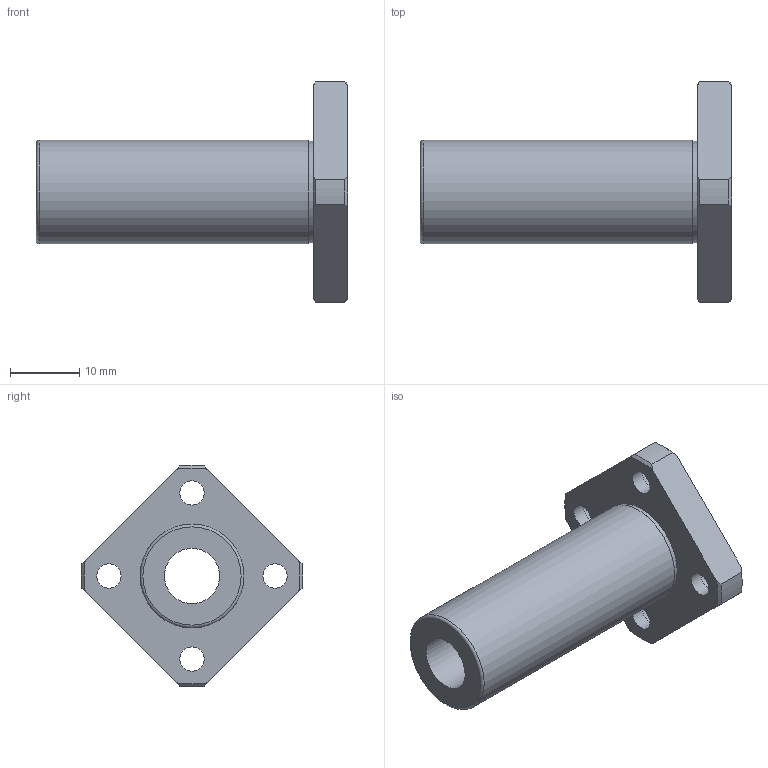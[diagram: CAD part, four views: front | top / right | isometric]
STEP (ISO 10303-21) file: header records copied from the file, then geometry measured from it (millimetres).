
FILE_DESCRIPTION(('STEP AP203'),'1');
FILE_NAME('//192.168.1.1/share/s-4 技術開発/s-4-4_CAD/s-4-4-3_見直し済み/002 修正済み/NFES-VL/NFES-VL_TOP/NFES-8VLUU.step','2022-03-08T00:55:43',(' '),(' '),'Spatial InterOp 3D',' ',' ');
FILE_SCHEMA(('CONFIG_CONTROL_DESIGN'));
Length unit declared in the file: millimetre
Products named in the file (1): 1
Bounding box: 45 x 31.98 x 31.98 mm (x, y, z)
Volume: 7440.5 mm3; surface area: 4850.1 mm2
Topology: 1 solids, 1 shells, 36 faces, 89 edges, 61 vertices
Faces by surface type: cylinder 15, plane 12, cone 8, torus 1
Full cylindrical faces by diameter (mm): 3.5 x4, 6 x4, 8 x1, 14.7 x1, 15 x1
Entity records: 1058 total; most frequent: CARTESIAN_POINT 211, DIRECTION 168, ORIENTED_EDGE 142, AXIS2_PLACEMENT_3D 76, EDGE_CURVE 71, EDGE_LOOP 64, VERTEX_POINT 55, FACE_OUTER_BOUND 48
